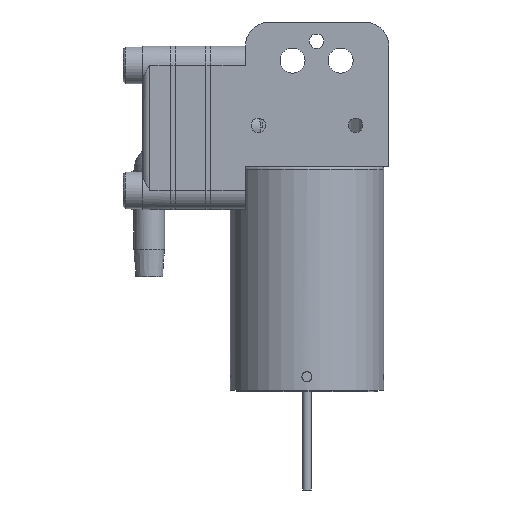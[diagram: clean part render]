
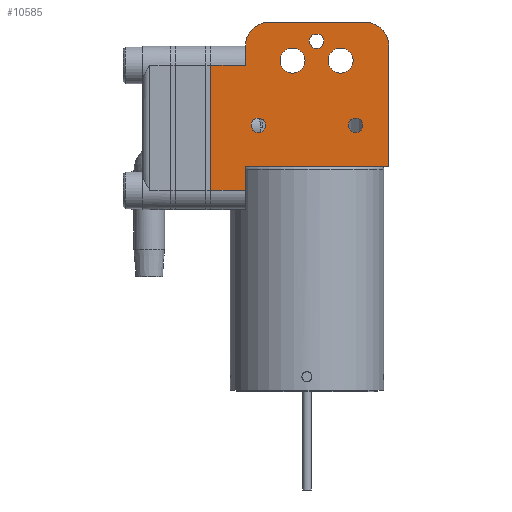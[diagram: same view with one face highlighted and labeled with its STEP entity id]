
A CAD part, front view. The second image highlights one B-rep face of the part: STEP entity #10585.
In plain terms, the highlighted planar face has unit normal (0, -1, 0).
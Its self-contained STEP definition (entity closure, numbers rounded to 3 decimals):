
#513 = VECTOR ( 'NONE', #9215, 1000. ) ;
#707 = CARTESIAN_POINT ( 'NONE',  ( 5.9, -17., 15.48 ) ) ;
#736 = CARTESIAN_POINT ( 'NONE',  ( 13.4, -17., 17. ) ) ;
#803 = CARTESIAN_POINT ( 'NONE',  ( 4.6, -17., 15.48 ) ) ;
#955 = EDGE_LOOP ( 'NONE', ( #6870, #17604, #3538, #12288, #8180, #14192, #17949, #13269, #5989, #15312, #1855 ) ) ;
#1290 = VERTEX_POINT ( 'NONE', #13014 ) ;
#1855 = ORIENTED_EDGE ( 'NONE', *, *, #5459, .F. ) ;
#1885 = DIRECTION ( 'NONE',  ( 0., 1., 0. ) ) ;
#1895 = EDGE_LOOP ( 'NONE', ( #11864 ) ) ;
#2123 = VECTOR ( 'NONE', #3296, 1000. ) ;
#2292 = CARTESIAN_POINT ( 'NONE',  ( -1.6, -17., 15. ) ) ;
#2320 = DIRECTION ( 'NONE',  ( 0., 1., 0. ) ) ;
#2381 = LINE ( 'NONE', #9520, #6496 ) ;
#2436 = CARTESIAN_POINT ( 'NONE',  ( 7.65, -17., 17.5 ) ) ;
#2535 = CARTESIAN_POINT ( 'NONE',  ( 50.555, -17., 4.5 ) ) ;
#2829 = EDGE_CURVE ( 'NONE', #13033, #18211, #6594, .T. ) ;
#3296 = DIRECTION ( 'NONE',  ( 0., 0., -1. ) ) ;
#3538 = ORIENTED_EDGE ( 'NONE', *, *, #8881, .F. ) ;
#3592 = DIRECTION ( 'NONE',  ( -1., 0., 0. ) ) ;
#3634 = AXIS2_PLACEMENT_3D ( 'NONE', #17649, #9015, #3592 ) ;
#3898 = VERTEX_POINT ( 'NONE', #2436 ) ;
#3917 = VERTEX_POINT ( 'NONE', #16693 ) ;
#4264 = VECTOR ( 'NONE', #14631, 1000. ) ;
#4502 = EDGE_CURVE ( 'NONE', #3917, #12774, #8538, .T. ) ;
#4503 = DIRECTION ( 'NONE',  ( -1., 0., 0. ) ) ;
#4504 = VERTEX_POINT ( 'NONE', #14271 ) ;
#4529 = CIRCLE ( 'NONE', #14921, 0.75 ) ;
#4581 = FACE_BOUND ( 'NONE', #1895, .T. ) ;
#4748 = ORIENTED_EDGE ( 'NONE', *, *, #9700, .T. ) ;
#5089 = EDGE_CURVE ( 'NONE', #9197, #9197, #15152, .T. ) ;
#5174 = DIRECTION ( 'NONE',  ( 0., 1., 0. ) ) ;
#5399 = LINE ( 'NONE', #2292, #18082 ) ;
#5459 = EDGE_CURVE ( 'NONE', #12774, #10681, #16028, .T. ) ;
#5734 = LINE ( 'NONE', #2535, #12963 ) ;
#5862 = PLANE ( 'NONE',  #18015 ) ;
#5899 = LINE ( 'NONE', #14408, #15681 ) ;
#5956 = CARTESIAN_POINT ( 'NONE',  ( 15.9, -17., 6.8 ) ) ;
#5970 = FACE_BOUND ( 'NONE', #18957, .T. ) ;
#5989 = ORIENTED_EDGE ( 'NONE', *, *, #18857, .F. ) ;
#6137 = EDGE_LOOP ( 'NONE', ( #6792 ) ) ;
#6496 = VECTOR ( 'NONE', #15345, 1000. ) ;
#6594 = CIRCLE ( 'NONE', #7251, 0.2 ) ;
#6695 = CARTESIAN_POINT ( 'NONE',  ( 1., -17., 17. ) ) ;
#6744 = FACE_OUTER_BOUND ( 'NONE', #955, .T. ) ;
#6792 = ORIENTED_EDGE ( 'NONE', *, *, #14722, .T. ) ;
#6870 = ORIENTED_EDGE ( 'NONE', *, *, #4502, .F. ) ;
#7088 = CARTESIAN_POINT ( 'NONE',  ( 11.7, -17., 8.75 ) ) ;
#7235 = EDGE_CURVE ( 'NONE', #18380, #18211, #5734, .T. ) ;
#7251 = AXIS2_PLACEMENT_3D ( 'NONE', #18125, #2320, #16792 ) ;
#7710 = DIRECTION ( 'NONE',  ( 0., 1., 0. ) ) ;
#7840 = ORIENTED_EDGE ( 'NONE', *, *, #14451, .T. ) ;
#7955 = VERTEX_POINT ( 'NONE', #15938 ) ;
#7966 = DIRECTION ( 'NONE',  ( -1., 0., 0. ) ) ;
#8180 = ORIENTED_EDGE ( 'NONE', *, *, #11902, .T. ) ;
#8250 = DIRECTION ( 'NONE',  ( -1., 0., 0. ) ) ;
#8538 = LINE ( 'NONE', #17095, #10215 ) ;
#8852 = DIRECTION ( 'NONE',  ( 0., 1., 0. ) ) ;
#8881 = EDGE_CURVE ( 'NONE', #18570, #12761, #10535, .T. ) ;
#9015 = DIRECTION ( 'NONE',  ( 0., 1., 0. ) ) ;
#9109 = EDGE_CURVE ( 'NONE', #17087, #17087, #4529, .T. ) ;
#9197 = VERTEX_POINT ( 'NONE', #803 ) ;
#9199 = VERTEX_POINT ( 'NONE', #18828 ) ;
#9215 = DIRECTION ( 'NONE',  ( 0., 0., 1. ) ) ;
#9290 = CIRCLE ( 'NONE', #14481, 2.5 ) ;
#9317 = DIRECTION ( 'NONE',  ( -1., 0., 0. ) ) ;
#9520 = CARTESIAN_POINT ( 'NONE',  ( 1., -17., -3.64 ) ) ;
#9561 = AXIS2_PLACEMENT_3D ( 'NONE', #16644, #5174, #7966 ) ;
#9700 = EDGE_CURVE ( 'NONE', #3898, #3898, #14360, .T. ) ;
#9702 = ORIENTED_EDGE ( 'NONE', *, *, #5089, .T. ) ;
#9956 = CARTESIAN_POINT ( 'NONE',  ( 12.45, -17., 8.75 ) ) ;
#10102 = DIRECTION ( 'NONE',  ( -1., 0., 0. ) ) ;
#10215 = VECTOR ( 'NONE', #14178, 1000. ) ;
#10307 = CARTESIAN_POINT ( 'NONE',  ( -1.6, -17., 2. ) ) ;
#10535 = LINE ( 'NONE', #16453, #513 ) ;
#10585 = ADVANCED_FACE ( 'NONE', ( #6744, #14000, #11124, #13039, #5970, #4581 ), #5862, .F. ) ;
#10586 = EDGE_LOOP ( 'NONE', ( #4748 ) ) ;
#10681 = VERTEX_POINT ( 'NONE', #13590 ) ;
#10707 = CARTESIAN_POINT ( 'NONE',  ( 3.5, -17., 17. ) ) ;
#11124 = FACE_BOUND ( 'NONE', #6137, .T. ) ;
#11589 = EDGE_LOOP ( 'NONE', ( #7840 ) ) ;
#11666 = EDGE_CURVE ( 'NONE', #10681, #7955, #5899, .T. ) ;
#11788 = AXIS2_PLACEMENT_3D ( 'NONE', #707, #15500, #8250 ) ;
#11836 = LINE ( 'NONE', #10307, #4264 ) ;
#11864 = ORIENTED_EDGE ( 'NONE', *, *, #9109, .T. ) ;
#11902 = EDGE_CURVE ( 'NONE', #9199, #13033, #2381, .T. ) ;
#12014 = VERTEX_POINT ( 'NONE', #13542 ) ;
#12288 = ORIENTED_EDGE ( 'NONE', *, *, #13071, .T. ) ;
#12303 = AXIS2_PLACEMENT_3D ( 'NONE', #13526, #7710, #10102 ) ;
#12761 = VERTEX_POINT ( 'NONE', #15375 ) ;
#12774 = VERTEX_POINT ( 'NONE', #6695 ) ;
#12832 = DIRECTION ( 'NONE',  ( 0., 1., 0. ) ) ;
#12963 = VECTOR ( 'NONE', #15582, 1000. ) ;
#13014 = CARTESIAN_POINT ( 'NONE',  ( 1.6, -17., 8.75 ) ) ;
#13033 = VERTEX_POINT ( 'NONE', #17833 ) ;
#13039 = FACE_BOUND ( 'NONE', #11589, .T. ) ;
#13071 = EDGE_CURVE ( 'NONE', #18570, #9199, #11836, .T. ) ;
#13269 = ORIENTED_EDGE ( 'NONE', *, *, #13858, .F. ) ;
#13526 = CARTESIAN_POINT ( 'NONE',  ( 2.35, -17., 8.75 ) ) ;
#13542 = CARTESIAN_POINT ( 'NONE',  ( 9.6, -17., 15.48 ) ) ;
#13590 = CARTESIAN_POINT ( 'NONE',  ( 3.5, -17., 19.5 ) ) ;
#13858 = EDGE_CURVE ( 'NONE', #4504, #18380, #16429, .T. ) ;
#14000 = FACE_BOUND ( 'NONE', #10586, .T. ) ;
#14178 = DIRECTION ( 'NONE',  ( 0., 0., 1. ) ) ;
#14192 = ORIENTED_EDGE ( 'NONE', *, *, #2829, .T. ) ;
#14271 = CARTESIAN_POINT ( 'NONE',  ( 15.9, -17., 17. ) ) ;
#14360 = CIRCLE ( 'NONE', #3634, 0.75 ) ;
#14408 = CARTESIAN_POINT ( 'NONE',  ( 13.4, -17., 19.5 ) ) ;
#14451 = EDGE_CURVE ( 'NONE', #12014, #12014, #15040, .T. ) ;
#14481 = AXIS2_PLACEMENT_3D ( 'NONE', #736, #1885, #9317 ) ;
#14549 = CARTESIAN_POINT ( 'NONE',  ( 1.2, -17., 4.5 ) ) ;
#14552 = CARTESIAN_POINT ( 'NONE',  ( -2.6, -17., 2. ) ) ;
#14631 = DIRECTION ( 'NONE',  ( 1., 0., 0. ) ) ;
#14722 = EDGE_CURVE ( 'NONE', #1290, #1290, #17173, .T. ) ;
#14921 = AXIS2_PLACEMENT_3D ( 'NONE', #9956, #12832, #18632 ) ;
#15040 = CIRCLE ( 'NONE', #9561, 1.3 ) ;
#15152 = CIRCLE ( 'NONE', #11788, 1.3 ) ;
#15312 = ORIENTED_EDGE ( 'NONE', *, *, #11666, .F. ) ;
#15345 = DIRECTION ( 'NONE',  ( 0., 0., 1. ) ) ;
#15375 = CARTESIAN_POINT ( 'NONE',  ( -2.6, -17., 15. ) ) ;
#15500 = DIRECTION ( 'NONE',  ( 0., 1., 0. ) ) ;
#15582 = DIRECTION ( 'NONE',  ( -1., 0., 0. ) ) ;
#15681 = VECTOR ( 'NONE', #15929, 1000. ) ;
#15849 = CARTESIAN_POINT ( 'NONE',  ( 15.9, -17., 4.5 ) ) ;
#15929 = DIRECTION ( 'NONE',  ( 1., 0., 0. ) ) ;
#15938 = CARTESIAN_POINT ( 'NONE',  ( 13.4, -17., 19.5 ) ) ;
#16028 = CIRCLE ( 'NONE', #18446, 2.5 ) ;
#16429 = LINE ( 'NONE', #5956, #2123 ) ;
#16453 = CARTESIAN_POINT ( 'NONE',  ( -2.6, -17., 2. ) ) ;
#16539 = DIRECTION ( 'NONE',  ( 1., 0., 0. ) ) ;
#16644 = CARTESIAN_POINT ( 'NONE',  ( 10.9, -17., 15.48 ) ) ;
#16693 = CARTESIAN_POINT ( 'NONE',  ( 1., -17., 15. ) ) ;
#16792 = DIRECTION ( 'NONE',  ( -1., 0., 0. ) ) ;
#17087 = VERTEX_POINT ( 'NONE', #7088 ) ;
#17095 = CARTESIAN_POINT ( 'NONE',  ( 1., -17., 8.926 ) ) ;
#17173 = CIRCLE ( 'NONE', #12303, 0.75 ) ;
#17328 = EDGE_CURVE ( 'NONE', #3917, #12761, #5399, .T. ) ;
#17582 = CARTESIAN_POINT ( 'NONE',  ( -1.6, -17., 0. ) ) ;
#17604 = ORIENTED_EDGE ( 'NONE', *, *, #17328, .T. ) ;
#17649 = CARTESIAN_POINT ( 'NONE',  ( 8.4, -17., 17.5 ) ) ;
#17833 = CARTESIAN_POINT ( 'NONE',  ( 1., -17., 4.3 ) ) ;
#17949 = ORIENTED_EDGE ( 'NONE', *, *, #7235, .F. ) ;
#17955 = DIRECTION ( 'NONE',  ( 0., 1., 0. ) ) ;
#18015 = AXIS2_PLACEMENT_3D ( 'NONE', #17582, #8852, #4503 ) ;
#18082 = VECTOR ( 'NONE', #18196, 1000. ) ;
#18125 = CARTESIAN_POINT ( 'NONE',  ( 1.2, -17., 4.3 ) ) ;
#18196 = DIRECTION ( 'NONE',  ( -1., 0., 0. ) ) ;
#18211 = VERTEX_POINT ( 'NONE', #14549 ) ;
#18380 = VERTEX_POINT ( 'NONE', #15849 ) ;
#18446 = AXIS2_PLACEMENT_3D ( 'NONE', #10707, #17955, #16539 ) ;
#18570 = VERTEX_POINT ( 'NONE', #14552 ) ;
#18632 = DIRECTION ( 'NONE',  ( -1., 0., 0. ) ) ;
#18828 = CARTESIAN_POINT ( 'NONE',  ( 1., -17., 2. ) ) ;
#18857 = EDGE_CURVE ( 'NONE', #7955, #4504, #9290, .T. ) ;
#18957 = EDGE_LOOP ( 'NONE', ( #9702 ) ) ;
